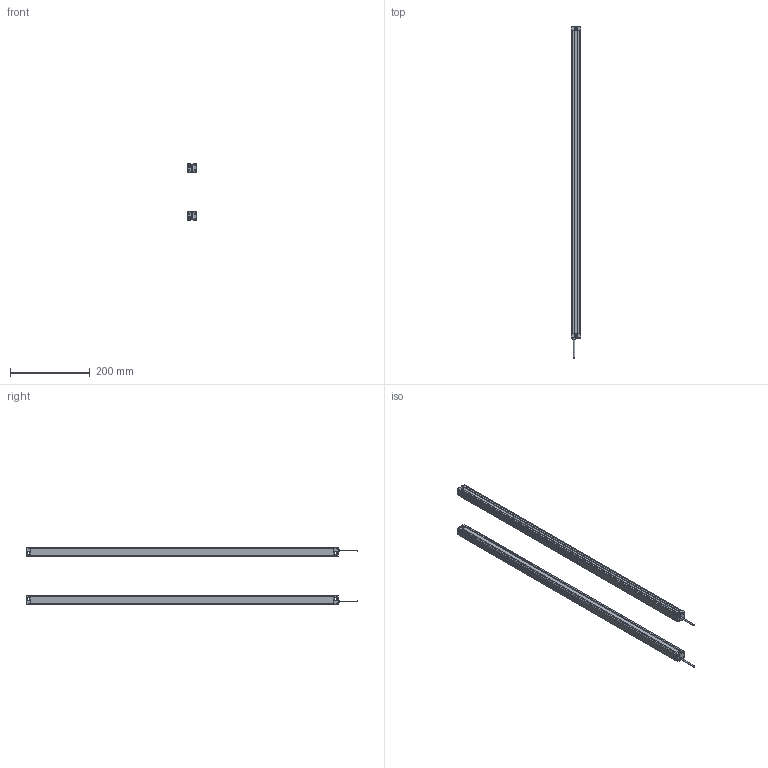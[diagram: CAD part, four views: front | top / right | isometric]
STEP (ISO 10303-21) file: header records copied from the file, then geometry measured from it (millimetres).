
FILE_DESCRIPTION (( 'STEP AP214' ), '1' );
FILE_NAME ('MTC3820.STEP', '2022-08-02T09:02:23', ( '' ), ( '' ), 'SwSTEP 2.0', 'SolidWorks 2018', '' );
FILE_SCHEMA (( 'AUTOMOTIVE_DESIGN' ));
Length unit declared in the file: millimetre
Products named in the file (5): P01^MTC; 噩砃P02^MTC; MTC3820; P02^MTC; MTC waike^MTC
Assembly tree (6 placements, depth 2):
  MTC3820
    MTC waike^MTC  x2
    P01^MTC  x2
    P02^MTC
    噩砃P02^MTC
Bounding box: 25 x 832 x 141.4 mm (x, y, z)
Volume: 260045.7 mm3; surface area: 357776.2 mm2
Topology: 8 solids, 8 shells, 480 faces, 1396 edges, 924 vertices
Faces by surface type: plane 272, cylinder 208
Entity records: 10886 total; most frequent: DIRECTION 1881, CARTESIAN_POINT 1878, ORIENTED_EDGE 1846, EDGE_CURVE 923, AXIS2_PLACEMENT_3D 637, VERTEX_POINT 610, LINE 607, VECTOR 607
